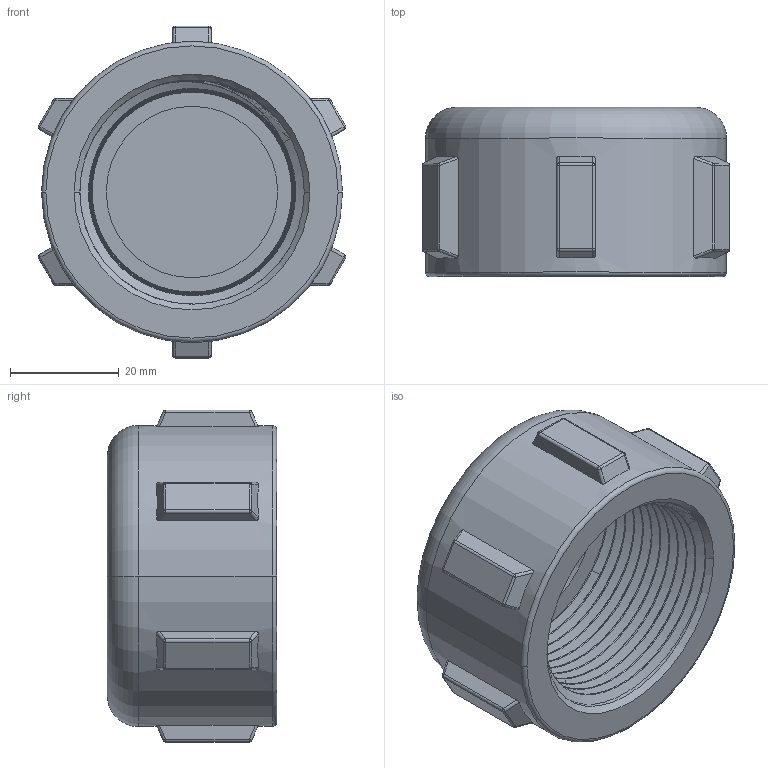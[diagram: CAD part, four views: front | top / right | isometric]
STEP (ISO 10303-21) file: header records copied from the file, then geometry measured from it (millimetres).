
FILE_DESCRIPTION(/* description */ ('Alibre Inc.'),/* implementation_level */ '2;1');
FILE_NAME(/* name */ 'export0',/* time_stamp */ '2019-10-09T11:48:47-04:00',/* author */ (''),/* organization */ (''),/* preprocessor_version */ 'ST-DEVELOPER v17',/* originating_system */ 'Alibre',/* authorisation */ '');
FILE_SCHEMA (('CONFIG_CONTROL_DESIGN'));
Length unit declared in the file: inch
Products named in the file (1): 200-62463-1000C
Bounding box: 56.51 x 31.1 x 61 mm (x, y, z)
Volume: 42767.7 mm3; surface area: 15938.7 mm2
Topology: 1 solids, 1 shells, 154 faces, 367 edges, 203 vertices
Faces by surface type: cylinder 52, plane 34, cone 25, sphere 24, bspline 15, torus 4
Entity records: 28389 total; most frequent: CARTESIAN_POINT 25253, ORIENTED_EDGE 694, DIRECTION 537, EDGE_CURVE 347, AXIS2_PLACEMENT_3D 219, VERTEX_POINT 203, EDGE_LOOP 162, FACE_BOUND 162
